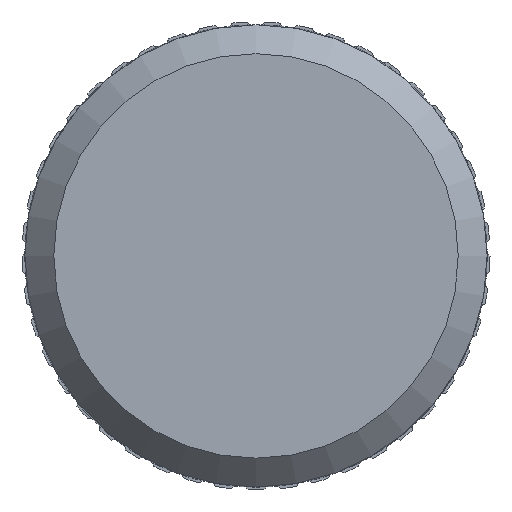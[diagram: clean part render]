
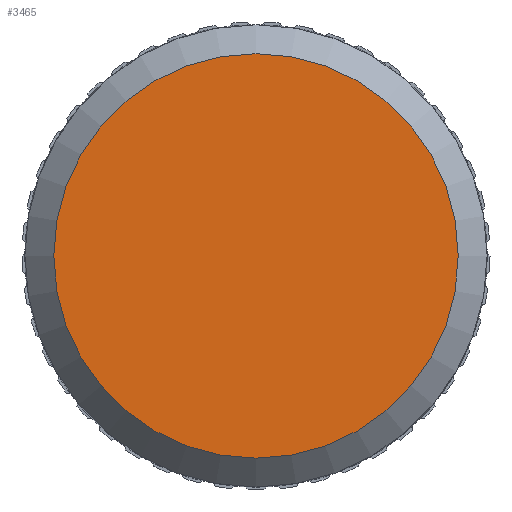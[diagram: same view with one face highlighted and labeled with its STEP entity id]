
A CAD part, left-side view. The second image highlights one B-rep face of the part: STEP entity #3465.
In plain terms, the highlighted planar face has unit normal (-1, 0, 0).
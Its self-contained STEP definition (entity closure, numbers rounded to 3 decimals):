
#152 = DIRECTION ( 'NONE',  ( 0., 0., 1. ) ) ;
#170 = CARTESIAN_POINT ( 'NONE',  ( -40., 0.05, 0. ) ) ;
#614 = CARTESIAN_POINT ( 'NONE',  ( -40., 4.05, 0. ) ) ;
#1224 = DIRECTION ( 'NONE',  ( 0., 0., 1. ) ) ;
#1700 = CIRCLE ( 'NONE', #4964, 3.5 ) ;
#1965 = EDGE_LOOP ( 'NONE', ( #5239 ) ) ;
#2239 = DIRECTION ( 'NONE',  ( -1., 0., 0. ) ) ;
#3345 = PLANE ( 'NONE',  #6858 ) ;
#3465 = ADVANCED_FACE ( 'NONE', ( #6533 ), #3345, .T. ) ;
#4237 = CARTESIAN_POINT ( 'NONE',  ( -40., 4.05, 3.5 ) ) ;
#4277 = VERTEX_POINT ( 'NONE', #4237 ) ;
#4964 = AXIS2_PLACEMENT_3D ( 'NONE', #614, #2239, #152 ) ;
#5045 = DIRECTION ( 'NONE',  ( -1., 0., 0. ) ) ;
#5239 = ORIENTED_EDGE ( 'NONE', *, *, #5511, .T. ) ;
#5511 = EDGE_CURVE ( 'NONE', #4277, #4277, #1700, .T. ) ;
#6533 = FACE_OUTER_BOUND ( 'NONE', #1965, .T. ) ;
#6858 = AXIS2_PLACEMENT_3D ( 'NONE', #170, #5045, #1224 ) ;
